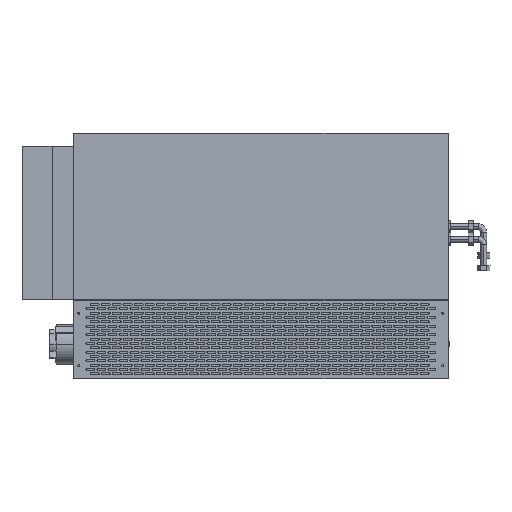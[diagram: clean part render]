
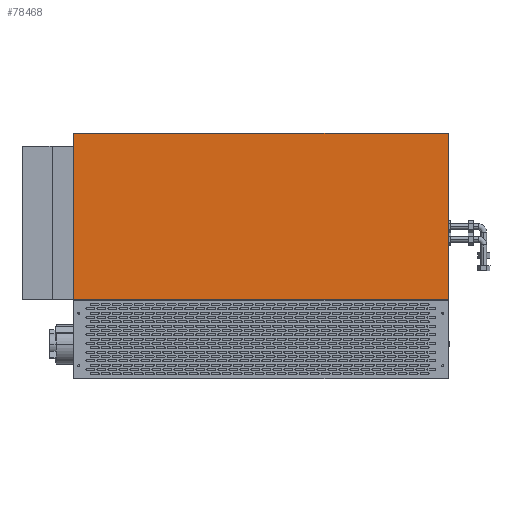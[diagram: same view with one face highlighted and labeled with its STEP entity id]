
A CAD part, top view. The second image highlights one B-rep face of the part: STEP entity #78468.
In plain terms, the highlighted planar face has unit normal (0, 0, 1).
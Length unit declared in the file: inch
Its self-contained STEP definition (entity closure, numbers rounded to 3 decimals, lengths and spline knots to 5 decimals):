
#7950 = CARTESIAN_POINT ( 'NONE',  ( 16.875, 7.164, 2.5625 ) ) ;
#10595 = EDGE_CURVE ( 'NONE', #33630, #21200, #81152, .T. ) ;
#12359 = DIRECTION ( 'NONE',  ( 0., 0., -1. ) ) ;
#12642 = VECTOR ( 'NONE', #106788, 39.37008 ) ;
#13846 = ORIENTED_EDGE ( 'NONE', *, *, #130022, .F. ) ;
#18211 = VECTOR ( 'NONE', #27252, 39.37008 ) ;
#19424 = CARTESIAN_POINT ( 'NONE',  ( -16.875, 22.125, 2.5625 ) ) ;
#20036 = VERTEX_POINT ( 'NONE', #7950 ) ;
#21200 = VERTEX_POINT ( 'NONE', #77661 ) ;
#21862 = EDGE_CURVE ( 'NONE', #33630, #83553, #140319, .T. ) ;
#23828 = VECTOR ( 'NONE', #61785, 39.37008 ) ;
#27252 = DIRECTION ( 'NONE',  ( 0., -1., 0. ) ) ;
#33630 = VERTEX_POINT ( 'NONE', #103610 ) ;
#43831 = DIRECTION ( 'NONE',  ( -1., 0., 0. ) ) ;
#48005 = ORIENTED_EDGE ( 'NONE', *, *, #21862, .T. ) ;
#53887 = CARTESIAN_POINT ( 'NONE',  ( -16.875, 22.125, 2.5625 ) ) ;
#58659 = VECTOR ( 'NONE', #118160, 39.37008 ) ;
#61785 = DIRECTION ( 'NONE',  ( 1., 0., 0. ) ) ;
#62412 = CARTESIAN_POINT ( 'NONE',  ( -16.875, 7.164, 2.5625 ) ) ;
#77661 = CARTESIAN_POINT ( 'NONE',  ( 16.875, 22.125, 2.5625 ) ) ;
#78189 = EDGE_LOOP ( 'NONE', ( #48005, #83154, #13846, #126308 ) ) ;
#78468 = ADVANCED_FACE ( 'NONE', ( #140475 ), #120411, .F. ) ;
#78776 = LINE ( 'NONE', #81618, #18211 ) ;
#81152 = LINE ( 'NONE', #81874, #23828 ) ;
#81618 = CARTESIAN_POINT ( 'NONE',  ( 16.875, 22.125, 2.5625 ) ) ;
#81874 = CARTESIAN_POINT ( 'NONE',  ( -16.875, 22.125, 2.5625 ) ) ;
#83154 = ORIENTED_EDGE ( 'NONE', *, *, #100322, .F. ) ;
#83553 = VERTEX_POINT ( 'NONE', #129473 ) ;
#100322 = EDGE_CURVE ( 'NONE', #20036, #83553, #116802, .T. ) ;
#103610 = CARTESIAN_POINT ( 'NONE',  ( -16.875, 22.125, 2.5625 ) ) ;
#106788 = DIRECTION ( 'NONE',  ( -1., 0., 0. ) ) ;
#112171 = AXIS2_PLACEMENT_3D ( 'NONE', #53887, #12359, #43831 ) ;
#116802 = LINE ( 'NONE', #62412, #12642 ) ;
#118160 = DIRECTION ( 'NONE',  ( 0., -1., 0. ) ) ;
#120411 = PLANE ( 'NONE',  #112171 ) ;
#126308 = ORIENTED_EDGE ( 'NONE', *, *, #10595, .F. ) ;
#129473 = CARTESIAN_POINT ( 'NONE',  ( -16.875, 7.164, 2.5625 ) ) ;
#130022 = EDGE_CURVE ( 'NONE', #21200, #20036, #78776, .T. ) ;
#140319 = LINE ( 'NONE', #19424, #58659 ) ;
#140475 = FACE_OUTER_BOUND ( 'NONE', #78189, .T. ) ;
